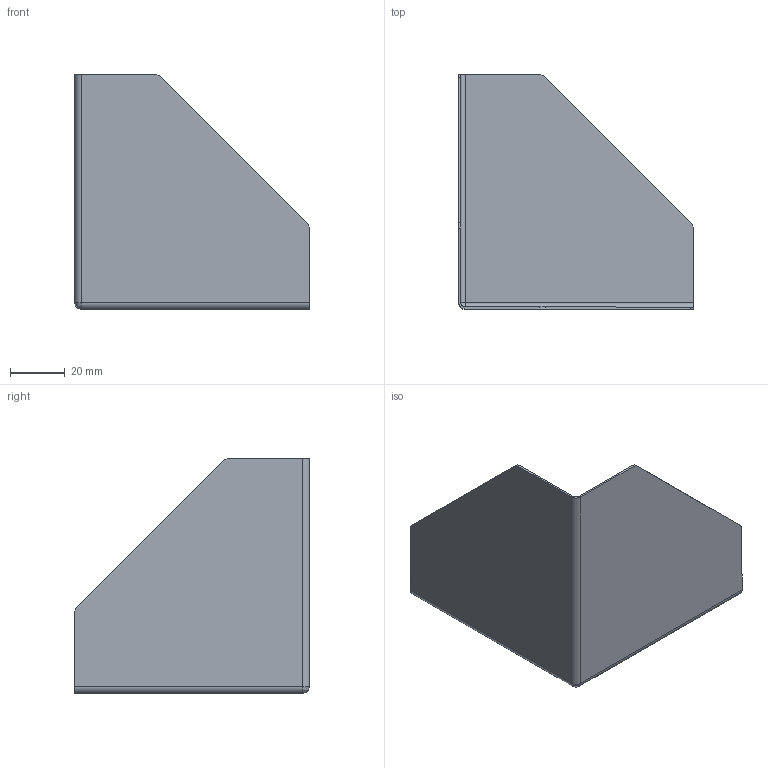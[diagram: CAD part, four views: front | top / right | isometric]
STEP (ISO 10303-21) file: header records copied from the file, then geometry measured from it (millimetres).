
FILE_DESCRIPTION (( 'STEP AP203' ), '1' );
FILE_NAME ('FDPCG013D_1_90.step', '2019-09-11T19:51:26', ( 'ydmin' ), ( '' ), 'SwSTEP 2.0', 'SolidWorks 2017', '' );
FILE_SCHEMA (( 'CONFIG_CONTROL_DESIGN' ));
Length unit declared in the file: inch
Products named in the file (1): FDPCG013D_1_90
Bounding box: 85.72 x 85.72 x 85.72 mm (x, y, z)
Volume: 13573.5 mm3; surface area: 34528.4 mm2
Topology: 1 solids, 1 shells, 26 faces, 68 edges, 42 vertices
Faces by surface type: plane 12, cylinder 12, bspline 2
Entity records: 887 total; most frequent: CARTESIAN_POINT 165, DIRECTION 140, ORIENTED_EDGE 132, EDGE_CURVE 66, AXIS2_PLACEMENT_3D 49, VERTEX_POINT 42, VECTOR 42, LINE 42
